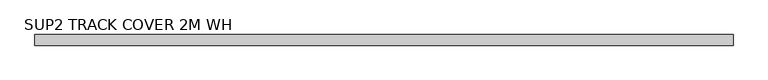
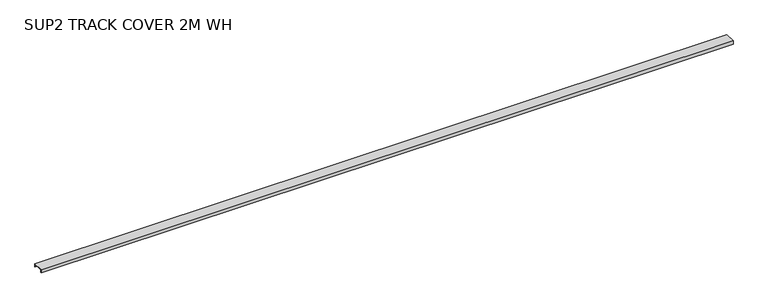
"""IFC4 building model written with IfcOpenShell, lengths in millimetres: light fixture geometry, Zumtobel SUP2 TRACK COVER 2M WH : SUP2 TRACK COVER 2M WH."""

from ifc_helpers import new_model, si_unit, frame, origin, place, context, project, spatial, polyline, outline, extrude, source, transform, mapped, element, save


def sup2_track_cover_2m_wh_2845657e(model_context):
    return source(origin(), model_context, "Body", "SweptSolid", [
        extrude(outline(polyline([(-11.5, 0.0), (11.5, 0.0), (11.5, -7.0), (10.5, -7.0), (10.5, -1.0), (-10.5, -1.0), (-10.5, -7.0), (-11.5, -7.0), (-11.5, 0.0)])), frame((399.5000048, 0.0, 0.0), z_axis=(1.0, 0.0, 0.0), x_axis=(0.0, 1.0, 0.0)), (0.0, 0.0, 1.0), 1506.5526736),
    ])


if __name__ == "__main__":
    model = new_model("IFC4")
    model_context = context("Model", 3, world=origin())
    ifc_project = project(units=[si_unit("LENGTHUNIT", "METRE", prefix="MILLI")], contexts=[model_context])
    site = spatial("IfcSite", under=ifc_project)
    building = spatial("IfcBuilding", under=site)
    placement = place(None, origin())
    sup2_track_cover_2m_wh_shape = sup2_track_cover_2m_wh_2845657e(model_context)
    element("IfcLightFixture", 1, ObjectType="Zumtobel SUP2 TRACK COVER 2M WH : SUP2 TRACK COVER 2M WH", at=placement, inside=building, context=model_context, shape_type="MappedRepresentation", body=[
        mapped(sup2_track_cover_2m_wh_shape, transform((0.0, 0.0, 0.0), x_axis=(1.0, 0.0, 0.0), y_axis=(0.0, 1.0, 0.0), z_axis=(0.0, 0.0, 1.0))),
    ])
    save(model, "model.ifc")
